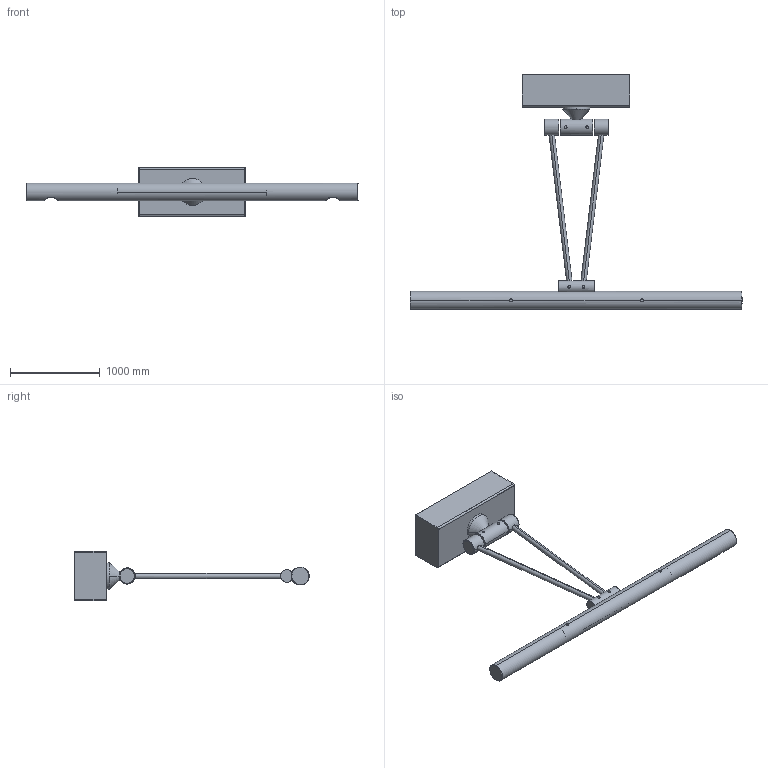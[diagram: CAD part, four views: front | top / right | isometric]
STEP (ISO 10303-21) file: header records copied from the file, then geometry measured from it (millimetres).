
FILE_DESCRIPTION(/* description */ (''),/* implementation_level */ '2;1');
FILE_NAME(/* name */ '4504',/* time_stamp */ '2022-01-20T16:32:19+01:00',/* author */ (''),/* organization */ (''),/* preprocessor_version */ 'ST-DEVELOPER v16.5',/* originating_system */ '',/* authorisation */ '');
FILE_SCHEMA (('CONFIG_CONTROL_DESIGN'));
Length unit declared in the file: centimetre
Products named in the file (1): Document
Bounding box: 3700 x 2614.89 x 550 mm (x, y, z)
Volume: 116512923 mm3; surface area: 8938799.9 mm2
Topology: 2 solids, 2 shells, 113 faces, 285 edges, 190 vertices
Faces by surface type: cylinder 63, plane 44, bspline 6
Entity records: 3833 total; most frequent: CARTESIAN_POINT 1811, ORIENTED_EDGE 570, EDGE_CURVE 285, VERTEX_POINT 190, B_SPLINE_CURVE_WITH_KNOTS 183, EDGE_LOOP 133, ADVANCED_FACE 113, FACE_OUTER_BOUND 113
